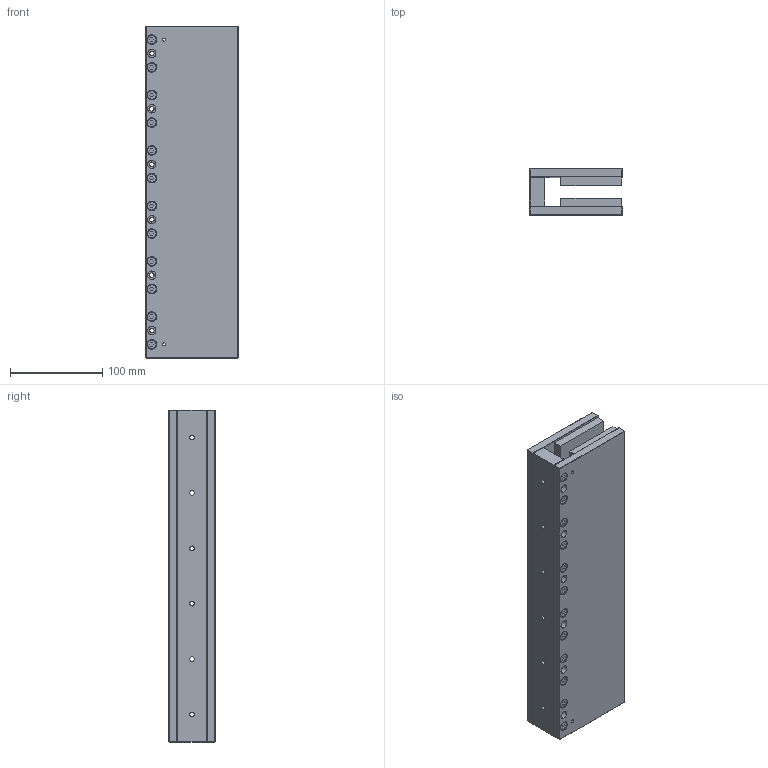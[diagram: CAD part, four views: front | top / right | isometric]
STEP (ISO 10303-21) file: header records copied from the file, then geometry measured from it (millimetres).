
FILE_DESCRIPTION (( 'STEP AP203' ), '1' );
FILE_NAME ('DX65F-TL360.step', '2021-01-04T11:02:30', ( '' ), ( '' ), 'SwSTEP 2.0', 'SolidWorks 2020', '' );
FILE_SCHEMA (( 'CONFIG_CONTROL_DESIGN' ));
Length unit declared in the file: millimetre
Products named in the file (1): DX65F-TL360
Bounding box: 100 x 50 x 359.5 mm (x, y, z)
Volume: 1232230.6 mm3; surface area: 209781.3 mm2
Topology: 1 solids, 37 shells, 730 faces, 1558 edges, 976 vertices
Faces by surface type: plane 386, cylinder 296, torus 48
Entity records: 19827 total; most frequent: DIRECTION 3636, CARTESIAN_POINT 3337, ORIENTED_EDGE 3116, EDGE_CURVE 1558, AXIS2_PLACEMENT_3D 1371, VERTEX_POINT 976, EDGE_LOOP 896, LINE 894
